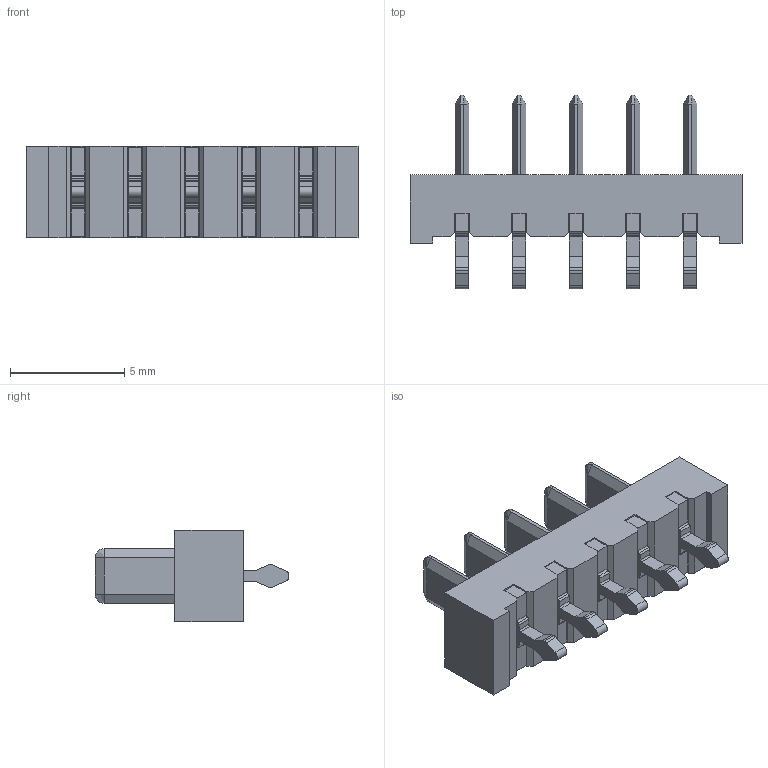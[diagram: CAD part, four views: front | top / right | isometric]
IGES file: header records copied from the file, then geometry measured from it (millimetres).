
Start section: SolidWorks IGES file using analytic representation for surfaces
Global section: file name: C:\Users\hsuan\Desktop\°õ¦æ§@·~\RFQ³æ\2026¦~\6¤ë\RB126060152\TSB1-05250-05XXA[3D].IGS; native system: SolidWorks 2022; preprocessor: SolidWorks 2022; author: hsuan; date: 260701.165551; units: millimetre
Bounding box: 14.55 x 8.5 x 4 mm (x, y, z)
Surface area: 547.2 mm2 (no closed solid volume)
Topology: 0 solids, 0 shells, 340 faces, 2274 edges, 2254 vertices
Faces by surface type: bspline 260, revolution 80
